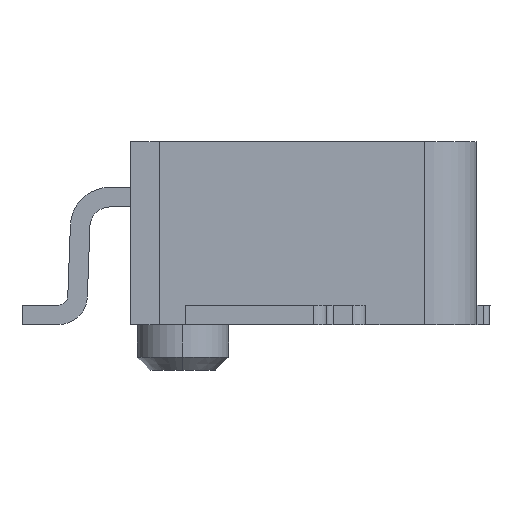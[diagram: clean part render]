
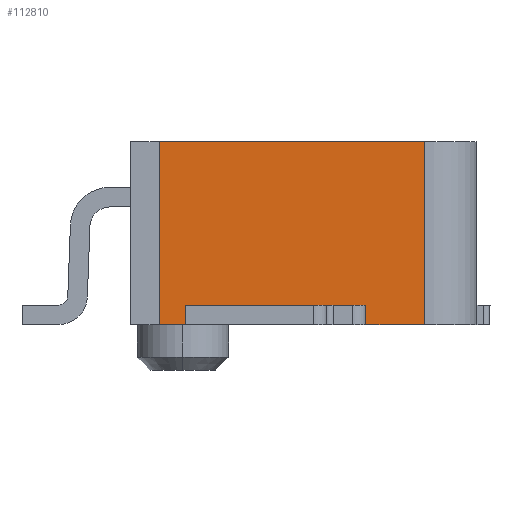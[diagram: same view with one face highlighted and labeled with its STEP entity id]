
A CAD part, left-side view. The second image highlights one B-rep face of the part: STEP entity #112810.
In plain terms, the highlighted planar face has unit normal (-1, 0, 0) as drawn and (1, 0, 0) by its records, which use the part's own axes.
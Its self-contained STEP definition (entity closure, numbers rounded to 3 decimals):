
#24510=CARTESIAN_POINT('',(238.919,-48.486,1.4));
#24520=VERTEX_POINT('',#24510);
#24570=CARTESIAN_POINT('',(238.919,-50.516,1.4));
#24580=DIRECTION('',(0.,1.,0.));
#24590=VECTOR('',#24580,1.);
#24600=LINE('',#24570,#24590);
#24610=CARTESIAN_POINT('',(238.919,-50.516,1.4));
#24620=VERTEX_POINT('',#24610);
#24630=EDGE_CURVE('',#24620,#24520,#24600,.T.);
#83460=CARTESIAN_POINT('',(238.919,-50.516,
0.));
#83470=VERTEX_POINT('',#83460);
#83500=CARTESIAN_POINT('',(238.919,-50.316,0.));
#83510=DIRECTION('',(0.,-1.,0.));
#83520=VECTOR('',#83510,1.);
#83530=LINE('',#83500,#83520);
#83540=CARTESIAN_POINT('',(238.919,-50.316,
0.));
#83550=VERTEX_POINT('',#83540);
#83560=EDGE_CURVE('',#83550,#83470,#83530,.T.);
#84210=CARTESIAN_POINT('',(238.919,-48.936,
0.));
#84220=VERTEX_POINT('',#84210);
#84250=CARTESIAN_POINT('',(238.919,-48.486,0.));
#84260=DIRECTION('',(0.,-1.,0.));
#84270=VECTOR('',#84260,1.);
#84280=LINE('',#84250,#84270);
#84290=CARTESIAN_POINT('',(238.919,-48.486,
0.));
#84300=VERTEX_POINT('',#84290);
#84310=EDGE_CURVE('',#84300,#84220,#84280,.T.);
#112230=CARTESIAN_POINT('',(238.919,-48.486,1.4));
#112240=DIRECTION('',(0.,0.,-1.));
#112250=VECTOR('',#112240,1.);
#112260=LINE('',#112230,#112250);
#112270=EDGE_CURVE('',#24520,#84300,#112260,.T.);
#112420=CARTESIAN_POINT('',(238.919,-48.483,1.403));
#112430=DIRECTION('',(1.,0.,0.));
#112440=DIRECTION('',(0.,-1.,0.));
#112450=AXIS2_PLACEMENT_3D('',#112420,#112430,#112440);
#112460=PLANE('',#112450);
#112470=CARTESIAN_POINT('',(238.919,-50.516,0.));
#112480=DIRECTION('',(0.,0.,1.));
#112490=VECTOR('',#112480,1.);
#112500=LINE('',#112470,#112490);
#112510=EDGE_CURVE('',#83470,#24620,#112500,.T.);
#112520=ORIENTED_EDGE('',*,*,#112510,.F.);
#112530=ORIENTED_EDGE('',*,*,#24630,.F.);
#112540=ORIENTED_EDGE('',*,*,#112270,.F.);
#112550=ORIENTED_EDGE('',*,*,#84310,.F.);
#112560=CARTESIAN_POINT('',(238.919,-48.936,0.15));
#112570=DIRECTION('',(0.,0.,-1.));
#112580=VECTOR('',#112570,1.);
#112590=LINE('',#112560,#112580);
#112600=CARTESIAN_POINT('',(238.919,-48.936,0.15));
#112610=VERTEX_POINT('',#112600);
#112620=EDGE_CURVE('',#112610,#84220,#112590,.T.);
#112630=ORIENTED_EDGE('',*,*,#112620,.T.);
#112640=CARTESIAN_POINT('',(238.919,-50.316,0.15));
#112650=DIRECTION('',(0.,1.,0.));
#112660=VECTOR('',#112650,1.);
#112670=LINE('',#112640,#112660);
#112680=CARTESIAN_POINT('',(238.919,-50.316,0.15));
#112690=VERTEX_POINT('',#112680);
#112700=EDGE_CURVE('',#112690,#112610,#112670,.T.);
#112710=ORIENTED_EDGE('',*,*,#112700,.T.);
#112720=CARTESIAN_POINT('',(238.919,-50.316,0.));
#112730=DIRECTION('',(0.,0.,1.));
#112740=VECTOR('',#112730,1.);
#112750=LINE('',#112720,#112740);
#112760=EDGE_CURVE('',#83550,#112690,#112750,.T.);
#112770=ORIENTED_EDGE('',*,*,#112760,.T.);
#112780=ORIENTED_EDGE('',*,*,#83560,.F.);
#112790=EDGE_LOOP('',(#112780,#112770,#112710,#112630,#112550,#112540,
#112530,#112520));
#112800=FACE_OUTER_BOUND('',#112790,.T.);
#112810=ADVANCED_FACE('',(#112800),#112460,.T.);
